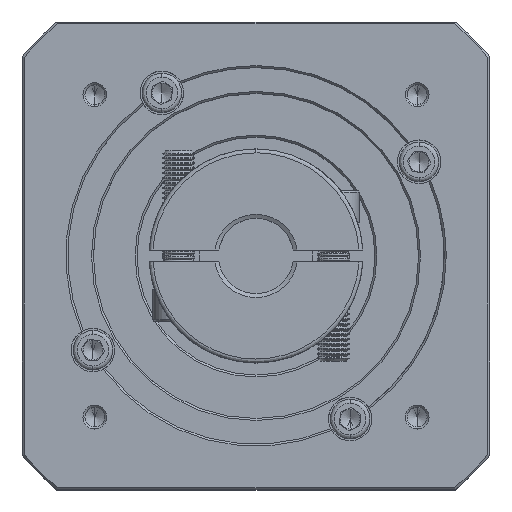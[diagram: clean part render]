
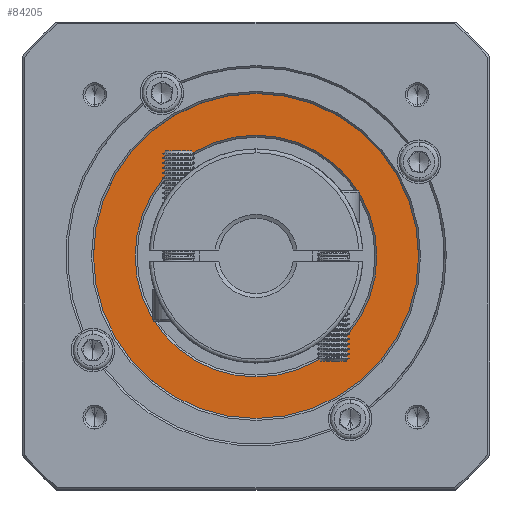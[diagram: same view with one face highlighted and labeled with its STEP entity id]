
A CAD part, top view. The second image highlights one B-rep face of the part: STEP entity #84205.
In plain terms, the highlighted planar face has unit normal (0, 0, 1).
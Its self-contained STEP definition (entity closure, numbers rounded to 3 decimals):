
#2761 = DIRECTION ( 'NONE',  ( 0., 0., 1. ) ) ;
#4075 = AXIS2_PLACEMENT_3D ( 'NONE', #61231, #109983, #62074 ) ;
#4701 = EDGE_CURVE ( 'NONE', #26030, #16162, #62415, .T. ) ;
#11332 = EDGE_CURVE ( 'NONE', #120751, #31299, #29781, .T. ) ;
#16162 = VERTEX_POINT ( 'NONE', #24251 ) ;
#24251 = CARTESIAN_POINT ( 'NONE',  ( 45.519, 148.879, 110.958 ) ) ;
#26030 = VERTEX_POINT ( 'NONE', #41561 ) ;
#28100 = CIRCLE ( 'NONE', #91887, 41. ) ;
#29781 = CIRCLE ( 'NONE', #96544, 41. ) ;
#31299 = VERTEX_POINT ( 'NONE', #81132 ) ;
#37514 = FACE_BOUND ( 'NONE', #120832, .T. ) ;
#39893 = DIRECTION ( 'NONE',  ( 0., 1., 0. ) ) ;
#39899 = CIRCLE ( 'NONE', #82154, 30.5 ) ;
#41561 = CARTESIAN_POINT ( 'NONE',  ( 45.519, 87.879, 110.958 ) ) ;
#41907 = CARTESIAN_POINT ( 'NONE',  ( 45.519, 118.379, 110.958 ) ) ;
#49029 = DIRECTION ( 'NONE',  ( 0., 1., 0. ) ) ;
#49081 = DIRECTION ( 'NONE',  ( 0., 1., 0. ) ) ;
#61231 = CARTESIAN_POINT ( 'NONE',  ( 45.519, 118.379, 110.958 ) ) ;
#61678 = DIRECTION ( 'NONE',  ( 0., 1., 0. ) ) ;
#62074 = DIRECTION ( 'NONE',  ( 0., 1., 0. ) ) ;
#62415 = CIRCLE ( 'NONE', #87346, 30.5 ) ;
#66098 = ORIENTED_EDGE ( 'NONE', *, *, #11332, .T. ) ;
#69307 = DIRECTION ( 'NONE',  ( 0., 0., -1. ) ) ;
#72510 = CARTESIAN_POINT ( 'NONE',  ( 45.519, 77.379, 110.958 ) ) ;
#78095 = EDGE_LOOP ( 'NONE', ( #88965, #66098 ) ) ;
#81132 = CARTESIAN_POINT ( 'NONE',  ( 45.519, 159.379, 110.958 ) ) ;
#82154 = AXIS2_PLACEMENT_3D ( 'NONE', #116657, #118336, #49029 ) ;
#84205 = ADVANCED_FACE ( 'NONE', ( #114653, #37514 ), #111672, .T. ) ;
#87346 = AXIS2_PLACEMENT_3D ( 'NONE', #127394, #69307, #49081 ) ;
#88965 = ORIENTED_EDGE ( 'NONE', *, *, #96556, .T. ) ;
#91887 = AXIS2_PLACEMENT_3D ( 'NONE', #41907, #2761, #61678 ) ;
#96544 = AXIS2_PLACEMENT_3D ( 'NONE', #98917, #117410, #39893 ) ;
#96556 = EDGE_CURVE ( 'NONE', #31299, #120751, #28100, .T. ) ;
#98917 = CARTESIAN_POINT ( 'NONE',  ( 45.519, 118.379, 110.958 ) ) ;
#107228 = ORIENTED_EDGE ( 'NONE', *, *, #4701, .T. ) ;
#109983 = DIRECTION ( 'NONE',  ( 0., 0., 1. ) ) ;
#109993 = ORIENTED_EDGE ( 'NONE', *, *, #124375, .T. ) ;
#111672 = PLANE ( 'NONE',  #4075 ) ;
#114653 = FACE_OUTER_BOUND ( 'NONE', #78095, .T. ) ;
#116657 = CARTESIAN_POINT ( 'NONE',  ( 45.519, 118.379, 110.958 ) ) ;
#117410 = DIRECTION ( 'NONE',  ( 0., 0., 1. ) ) ;
#118336 = DIRECTION ( 'NONE',  ( 0., 0., -1. ) ) ;
#120751 = VERTEX_POINT ( 'NONE', #72510 ) ;
#120832 = EDGE_LOOP ( 'NONE', ( #109993, #107228 ) ) ;
#124375 = EDGE_CURVE ( 'NONE', #16162, #26030, #39899, .T. ) ;
#127394 = CARTESIAN_POINT ( 'NONE',  ( 45.519, 118.379, 110.958 ) ) ;
